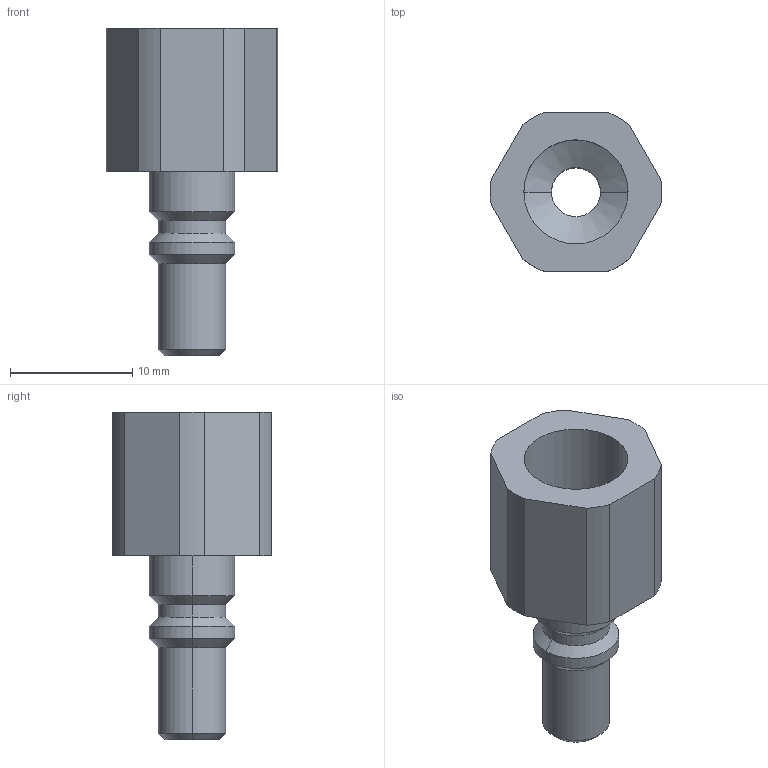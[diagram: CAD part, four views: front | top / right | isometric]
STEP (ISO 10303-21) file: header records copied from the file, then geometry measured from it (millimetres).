
FILE_DESCRIPTION (( 'STEP AP203' ), '1' );
FILE_NAME ('MS-10PF.STEP', '2024-10-11T07:21:56', ( '微软用户' ), ( '微软中国' ), 'SwSTEP 2.0', 'SolidWorks 2018', '' );
FILE_SCHEMA (( 'CONFIG_CONTROL_DESIGN' ));
Length unit declared in the file: millimetre
Products named in the file (1): MS-10PF
Bounding box: 13.99 x 13 x 26.7 mm (x, y, z)
Volume: 1307.8 mm3; surface area: 1517.4 mm2
Topology: 1 solids, 1 shells, 38 faces, 87 edges, 52 vertices
Faces by surface type: cylinder 19, cone 10, plane 9
Entity records: 1148 total; most frequent: DIRECTION 205, CARTESIAN_POINT 178, ORIENTED_EDGE 174, EDGE_CURVE 87, AXIS2_PLACEMENT_3D 79, VERTEX_POINT 52, LINE 47, VECTOR 47
